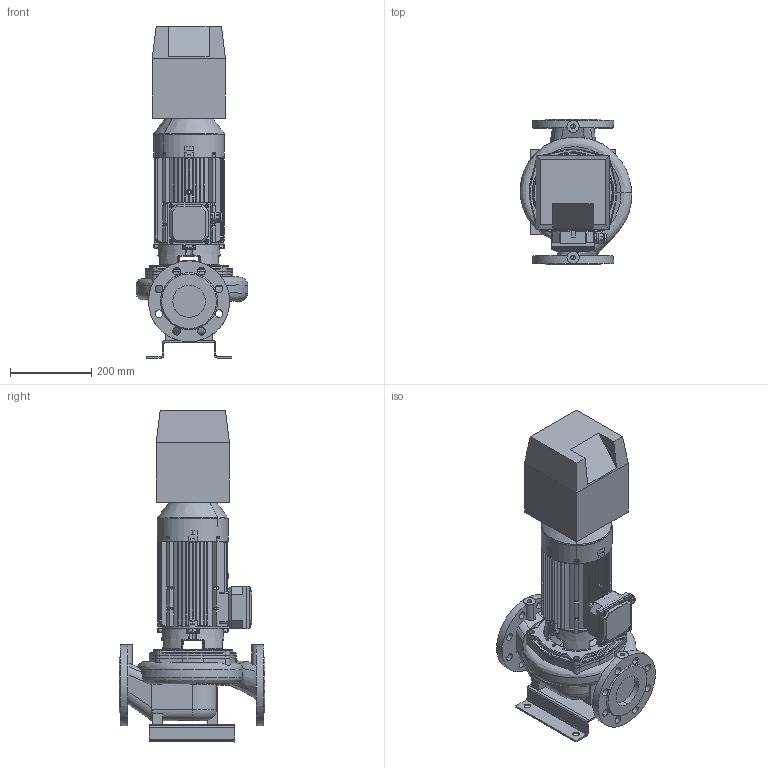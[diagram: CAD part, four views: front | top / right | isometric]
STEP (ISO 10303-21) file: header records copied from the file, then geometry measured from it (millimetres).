
FILE_DESCRIPTION(('STEP AP214'),'1');
FILE_NAME('export.stp','2018-08-08T13:47:48',(' '),(' '),'Spatial InterOp 3D',' ',' ');
FILE_SCHEMA(('AUTOMOTIVE_DESIGN { 1 0 10303 214 1 1 1 1 }'));
Length unit declared in the file: millimetre
Products named in the file (26): W_L80A4NC150KP; V_TLL65AB80A1102; V_PPL80A; V_JALKA35973; 160024; 160004_Valu; V_MKP90_1_F19; M5x8_DIN; DIN_7985-M5X8; 160141; M5x12_DIN; DIN_7985-M5X12; 160137; 160138; 160139; 160140; Koura_Ale_M5; Plug_Blind_M20; Sealing_Plug_M20; 160048___; 160068___; 160135; NC_Size1
Assembly tree (28 placements, depth 5):
  W_L80A4NC150KP
    V_TLL65AB80A1102
    V_PPL80A
    V_JALKA35973
    V_MKP90_1_F19
      160024
        160004_Valu
      160141
        M5x8_DIN
          DIN_7985-M5X8
        M5x12_DIN
          DIN_7985-M5X12
        M5x12_DIN
          DIN_7985-M5X12
        M5x12_DIN
          DIN_7985-M5X12
        M5x12_DIN
          DIN_7985-M5X12
        160137
        160138
        160139
        160140
        Koura_Ale_M5
        Plug_Blind_M20
        Sealing_Plug_M20
      160048___
      160068___
      160135
    NC_Size1
Bounding box: 275.49 x 360 x 819.5 mm (x, y, z)
Volume: 15121642.6 mm3; surface area: 1743592.8 mm2
Topology: 21 solids, 21 shells, 2625 faces, 7010 edges, 4403 vertices
Faces by surface type: plane 1059, cylinder 822, bspline 280, torus 276, cone 151, sphere 37
Entity records: 103279 total; most frequent: CARTESIAN_POINT 36167, ORIENTED_EDGE 13576, DIRECTION 12542, EDGE_CURVE 6788, AXIS2_PLACEMENT_3D 4742, VERTEX_POINT 4307, LINE 3058, VECTOR 3058
